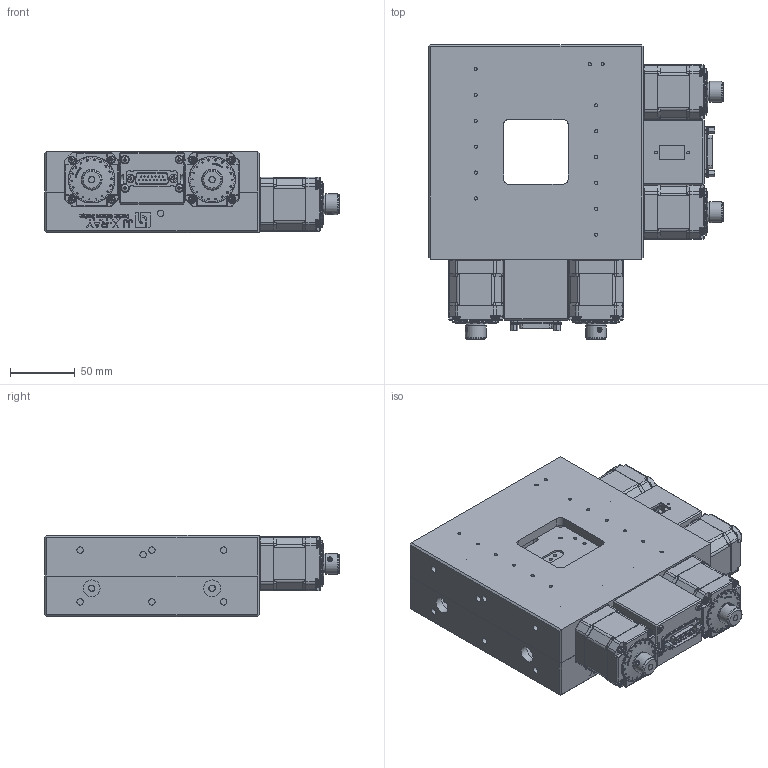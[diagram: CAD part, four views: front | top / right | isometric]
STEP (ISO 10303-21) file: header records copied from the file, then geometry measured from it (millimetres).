
FILE_DESCRIPTION(/* description */ (''),/* implementation_level */ '2;1');
FILE_NAME(/* name */ 'C:\WF\Designs\Slitter\14022 IB C50x50 air\Step\IB C50 Air step.stp',/* time_stamp */ '2017-08-24T12:14:45+02:00',/* author */ ('Henning'),/* organization */ ('JJ X-RAY A/S'),/* preprocessor_version */ 'ST-DEVELOPER v16.1',/* originating_system */ 'Autodesk Inventor 2016',/* authorisation */ '');
FILE_SCHEMA (('AUTOMOTIVE_DESIGN { 1 0 10303 214 3 1 1 }'));
Products named in the file (18): 14022012_rev1; skalaknap del3; skalaknap; skalaknap del2; skalaknap del1; skalaknap_1; Vexta stepmotor 42mm [Title [Summary]=PK245-0][midterextr=25 mm]; local.ISO.17.290.1; ISO 7045 - M3 x 30 - 4.8 - ZDIN EN ISO; 14022048; DIN 7985 (H) - M3x30-H; Dsub 15 Pin, 2 Row, Male; D-Connector screw; 14022005 step; 14022012A_rev1; 14022006 step; DIN 912 - M5 x 0,8 x 35 x 22; IB C50 Air step
Assembly tree (56 placements, depth 4):
  IB C50 Air step
    14022005 step
      14022012_rev1
      skalaknap_1  x2
        skalaknap del3
        skalaknap
        skalaknap del2
        skalaknap del1
      Vexta stepmotor 42mm [Title [Summary]=PK245-0][midterextr=25 mm]  x2
      local.ISO.17.290.1  x2
      ISO 7045 - M3 x 30 - 4.8 - ZDIN EN ISO  x8
      14022048
      DIN 7985 (H) - M3x30-H  x4
      Dsub 15 Pin, 2 Row, Male
      D-Connector screw  x2
    14022006 step
      14022012A_rev1
      skalaknap_1  x2
        skalaknap del3
        skalaknap
        skalaknap del2
        skalaknap del1
      Vexta stepmotor 42mm [Title [Summary]=PK245-0][midterextr=25 mm]  x2
      local.ISO.17.290.1  x2
      ISO 7045 - M3 x 30 - 4.8 - ZDIN EN ISO  x8
      14022048
      DIN 7985 (H) - M3x30-H  x4
      Dsub 15 Pin, 2 Row, Male
      D-Connector screw  x2
    DIN 912 - M5 x 0,8 x 35 x 22  x4
Bounding box: 228 x 228 x 63 mm (x, y, z)
Volume: 938972.4 mm3; surface area: 313049.5 mm2
Topology: 62 solids, 62 shells, 7668 faces, 20698 edges, 13588 vertices
Faces by surface type: plane 4006, bspline 1702, cylinder 1022, cone 680, torus 204, sphere 54
Full cylindrical faces by diameter (mm): 0.991 x30, 1.221 x8, 2.156 x8, 2.459 x80, 2.487 x4, 2.729 x16, 2.75 x8, 2.82 x4, 3 x28, 3.048 x4, 3.5 x8, 4 x4, 4.134 x4, 4.5 x16, 4.917 x12, 5 x32, 6.5 x8, 8.5 x4, 9 x4, 13 x4, 15 x4, 16 x4, 20 x4, 22 x4, 30 x4, 36 x4
Entity records: 92097 total; most frequent: CARTESIAN_POINT 28769, ORIENTED_EDGE 14168, DIRECTION 10486, EDGE_CURVE 7084, VERTEX_POINT 4777, LINE 3902, VECTOR 3902, EDGE_LOOP 3357
